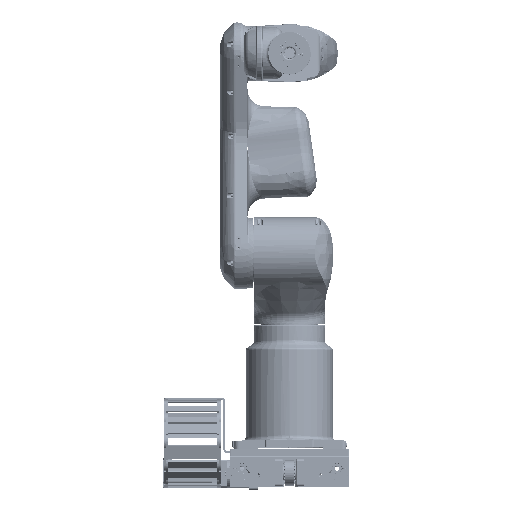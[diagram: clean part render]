
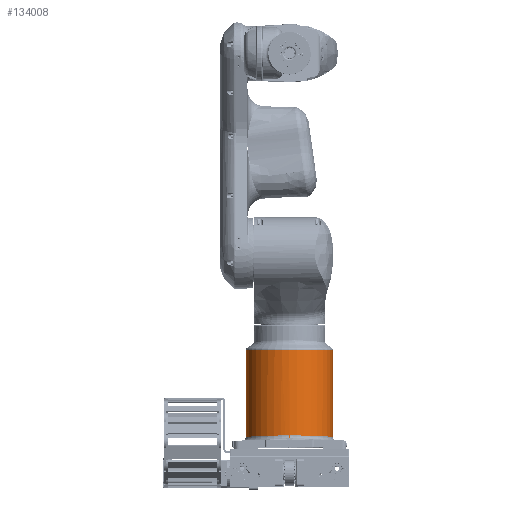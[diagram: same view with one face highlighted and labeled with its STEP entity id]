
A CAD part, top view. The second image highlights one B-rep face of the part: STEP entity #134008.
In plain terms, the highlighted cylindrical face has radius 91.5 mm (diameter 183 mm), a partial arc.
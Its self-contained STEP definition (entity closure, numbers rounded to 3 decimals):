
#261=ELLIPSE('',#146113,91.556,91.5);
#266=ELLIPSE('',#146121,91.556,91.5);
#271=ELLIPSE('',#146171,91.556,91.5);
#272=ELLIPSE('',#146173,2621.814,91.5);
#273=ELLIPSE('',#146177,2621.814,91.5);
#274=ELLIPSE('',#146180,91.556,91.5);
#13794=CYLINDRICAL_SURFACE('',#146184,91.5);
#19603=FACE_OUTER_BOUND('',#27195,.T.);
#27195=EDGE_LOOP('',(#120410,#120411,#120412,#120413,#120414,#120415,#120416,
#120417,#120418));
#39219=LINE('',#222968,#51532);
#39226=LINE('',#222982,#51539);
#51532=VECTOR('',#178093,1000.);
#51539=VECTOR('',#178102,1000.);
#57300=CIRCLE('',#146185,91.5);
#68708=VERTEX_POINT('',#222957);
#68711=VERTEX_POINT('',#222966);
#68716=VERTEX_POINT('',#222979);
#68717=VERTEX_POINT('',#222981);
#68792=VERTEX_POINT('',#223273);
#68793=VERTEX_POINT('',#223275);
#68802=VERTEX_POINT('',#223300);
#68825=VERTEX_POINT('',#223427);
#68827=VERTEX_POINT('',#223438);
#86345=EDGE_CURVE('',#68708,#68711,#39219,.T.);
#86352=EDGE_CURVE('',#68717,#68716,#39226,.T.);
#86465=EDGE_CURVE('',#68792,#68793,#261,.F.);
#86479=EDGE_CURVE('',#68793,#68802,#266,.F.);
#86541=EDGE_CURVE('',#68825,#68717,#271,.T.);
#86544=EDGE_CURVE('',#68792,#68825,#272,.T.);
#86547=EDGE_CURVE('',#68802,#68827,#273,.T.);
#86550=EDGE_CURVE('',#68711,#68827,#274,.T.);
#86553=EDGE_CURVE('',#68716,#68708,#57300,.T.);
#120410=ORIENTED_EDGE('',*,*,#86345,.T.);
#120411=ORIENTED_EDGE('',*,*,#86550,.T.);
#120412=ORIENTED_EDGE('',*,*,#86547,.F.);
#120413=ORIENTED_EDGE('',*,*,#86479,.F.);
#120414=ORIENTED_EDGE('',*,*,#86465,.F.);
#120415=ORIENTED_EDGE('',*,*,#86544,.T.);
#120416=ORIENTED_EDGE('',*,*,#86541,.T.);
#120417=ORIENTED_EDGE('',*,*,#86352,.T.);
#120418=ORIENTED_EDGE('',*,*,#86553,.T.);
#134008=ADVANCED_FACE('',(#19603),#13794,.T.);
#146113=AXIS2_PLACEMENT_3D('',#223276,#178315,#178316);
#146121=AXIS2_PLACEMENT_3D('',#223301,#178339,#178340);
#146171=AXIS2_PLACEMENT_3D('',#223428,#178479,#178480);
#146173=AXIS2_PLACEMENT_3D('',#223432,#178485,#178486);
#146177=AXIS2_PLACEMENT_3D('',#223439,#178494,#178495);
#146180=AXIS2_PLACEMENT_3D('',#223444,#178501,#178502);
#146184=AXIS2_PLACEMENT_3D('',#223448,#178509,#178510);
#146185=AXIS2_PLACEMENT_3D('',#223449,#178511,#178512);
#178093=DIRECTION('',(0.,-1.,0.));
#178102=DIRECTION('',(0.,1.,0.));
#178315=DIRECTION('center_axis',(0.,0.999,0.035));
#178316=DIRECTION('ref_axis',(0.,-0.035,0.999));
#178339=DIRECTION('center_axis',(0.,0.999,-0.035));
#178340=DIRECTION('ref_axis',(0.,-0.035,-0.999));
#178479=DIRECTION('center_axis',(0.,0.999,0.035));
#178480=DIRECTION('ref_axis',(0.,-0.035,0.999));
#178485=DIRECTION('center_axis',(0.,0.035,-0.999));
#178486=DIRECTION('ref_axis',(0.,-0.999,-0.035));
#178494=DIRECTION('center_axis',(0.,-0.035,
-0.999));
#178495=DIRECTION('ref_axis',(0.,-0.999,0.035));
#178501=DIRECTION('center_axis',(0.,0.999,-0.035));
#178502=DIRECTION('ref_axis',(0.,-0.035,-0.999));
#178509=DIRECTION('center_axis',(0.,1.,0.));
#178510=DIRECTION('ref_axis',(0.,0.,1.));
#178511=DIRECTION('center_axis',(0.,-1.,0.));
#178512=DIRECTION('ref_axis',(0.,0.,1.));
#222957=CARTESIAN_POINT('',(-1.5,-51.676,-91.5));
#222966=CARTESIAN_POINT('',(-1.5,-234.336,-91.5));
#222968=CARTESIAN_POINT('',(-1.5,-51.676,-91.5));
#222979=CARTESIAN_POINT('',(-1.5,-51.676,91.5));
#222981=CARTESIAN_POINT('',(-1.5,-234.336,91.5));
#222982=CARTESIAN_POINT('',(-1.5,-234.465,91.5));
#223273=CARTESIAN_POINT('',(-93.,-239.002,0.059));
#223275=CARTESIAN_POINT('',(-93.,-239.,0.));
#223276=CARTESIAN_POINT('Origin',(-1.5,-239.,0.));
#223300=CARTESIAN_POINT('',(-93.,-239.002,-0.059));
#223301=CARTESIAN_POINT('Origin',(-1.5,-239.,0.));
#223427=CARTESIAN_POINT('',(-92.999,-231.152,0.333));
#223428=CARTESIAN_POINT('Origin',(-1.5,-231.141,0.));
#223432=CARTESIAN_POINT('Origin',(-1.5,-240.691,0.));
#223438=CARTESIAN_POINT('',(-92.999,-231.152,-0.333));
#223439=CARTESIAN_POINT('Origin',(-1.5,-240.691,0.));
#223444=CARTESIAN_POINT('Origin',(-1.5,-231.141,0.));
#223448=CARTESIAN_POINT('Origin',(-1.5,-257.,0.));
#223449=CARTESIAN_POINT('Origin',(-1.5,-51.676,0.));
